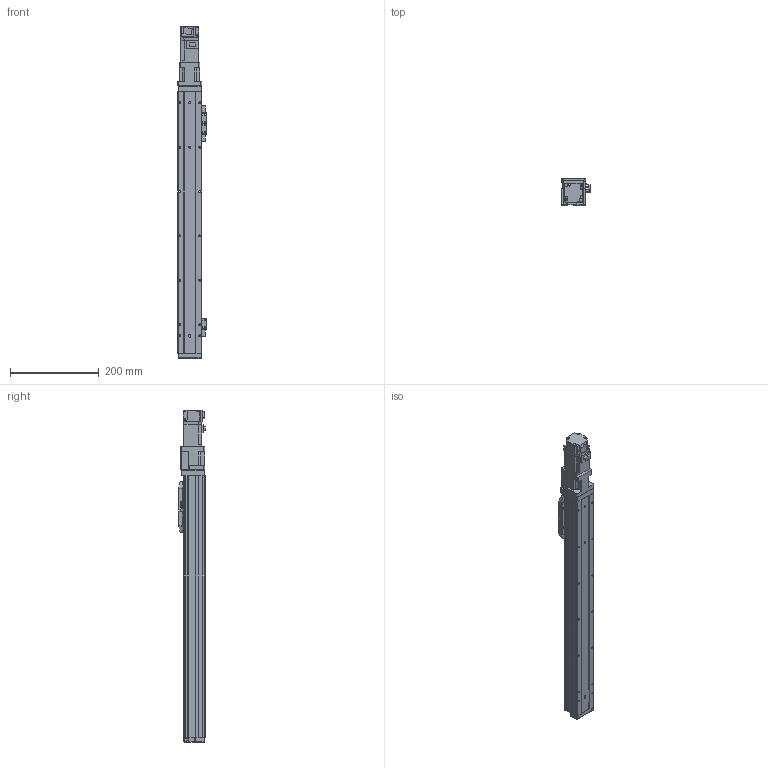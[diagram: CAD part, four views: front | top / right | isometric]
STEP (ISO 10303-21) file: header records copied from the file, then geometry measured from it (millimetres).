
FILE_DESCRIPTION (( 'STEP AP214' ), '1' );
FILE_NAME ('N_GRH5-450-BC-M10.step', '2025-03-14T09:34:03', ( '' ), ( '' ), 'SwSTEP 2.0', 'SolidWorks 2016', '' );
FILE_SCHEMA (( 'AUTOMOTIVE_DESIGN' ));
Length unit declared in the file: millimetre
Products named in the file (5): N_GRH5-GY-011^N_GRH5-450-BC-M10; N_GRH5-BC-008^N_GRH5-450-BC-M10; N_GRH5-450-BC-M10; N_GRH5-GY-004^N_GRH5-450-BC-M10; HF-KP13_100W_Motor^N_GRH5-450-BC-M10
Assembly tree (4 placements, depth 2):
  N_GRH5-450-BC-M10
    N_GRH5-GY-011^N_GRH5-450-BC-M10
    N_GRH5-GY-004^N_GRH5-450-BC-M10
    N_GRH5-BC-008^N_GRH5-450-BC-M10
    HF-KP13_100W_Motor^N_GRH5-450-BC-M10
Bounding box: 64.05 x 60.7 x 747.9 mm (x, y, z)
Volume: 1236160.3 mm3; surface area: 329739.2 mm2
Topology: 4 solids, 5 shells, 934 faces, 2414 edges, 1535 vertices
Faces by surface type: plane 554, cylinder 320, cone 58, sphere 2
Entity records: 34894 total; most frequent: CARTESIAN_POINT 4926, DIRECTION 4925, ORIENTED_EDGE 4756, EDGE_CURVE 2378, VECTOR 1677, LINE 1677, AXIS2_PLACEMENT_3D 1624, VERTEX_POINT 1533
